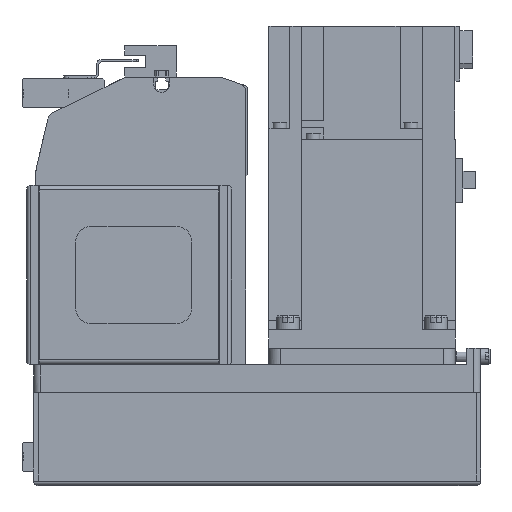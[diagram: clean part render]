
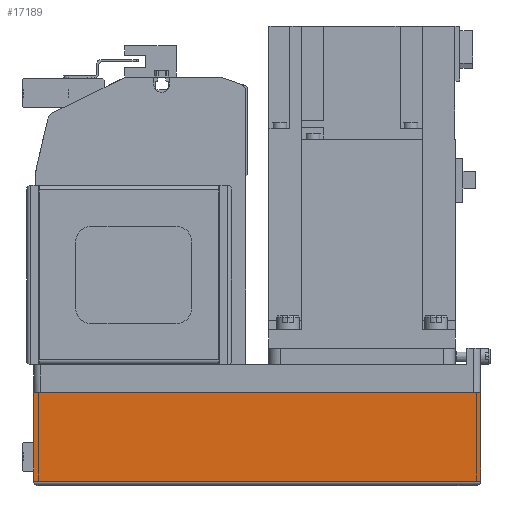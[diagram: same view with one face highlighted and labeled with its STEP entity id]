
A CAD part, left-side view. The second image highlights one B-rep face of the part: STEP entity #17189.
In plain terms, the highlighted planar face has unit normal (-1, 0, 0) as drawn and (0, 1, 0) by its records, which use the part's own axes.
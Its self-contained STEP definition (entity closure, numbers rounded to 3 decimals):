
#2706=ORIENTED_EDGE('',*,*,#6957,.F.);
#2707=ORIENTED_EDGE('',*,*,#6997,.F.);
#2708=ORIENTED_EDGE('',*,*,#6934,.T.);
#2709=ORIENTED_EDGE('',*,*,#6947,.T.);
#6934=EDGE_CURVE('',#9223,#9226,#10986,.T.);
#6947=EDGE_CURVE('',#9226,#9238,#10999,.T.);
#6957=EDGE_CURVE('',#9246,#9238,#11009,.T.);
#6997=EDGE_CURVE('',#9223,#9246,#11027,.T.);
#9223=VERTEX_POINT('',#26426);
#9226=VERTEX_POINT('',#26431);
#9238=VERTEX_POINT('',#26459);
#9246=VERTEX_POINT('',#26479);
#10986=LINE('',#26432,#12602);
#10999=LINE('',#26460,#12615);
#11009=LINE('',#26480,#12625);
#11027=LINE('',#26550,#12643);
#12602=VECTOR('',#21150,1000.);
#12615=VECTOR('',#21169,1000.);
#12625=VECTOR('',#21183,1000.);
#12643=VECTOR('',#21277,1000.);
#14075=EDGE_LOOP('',(#2706,#2707,#2708,#2709));
#15357=FACE_BOUND('',#14075,.T.);
#16472=PLANE('',#18432);
#17189=ADVANCED_FACE('',(#15357),#16472,.T.);
#18432=AXIS2_PLACEMENT_3D('',#26549,#21275,#21276);
#21150=DIRECTION('',(0.,0.,1.));
#21169=DIRECTION('',(1.,0.,0.));
#21183=DIRECTION('',(0.,0.,1.));
#21275=DIRECTION('',(0.,1.,0.));
#21276=DIRECTION('',(0.,0.,1.));
#21277=DIRECTION('',(1.,0.,0.));
#26426=CARTESIAN_POINT('',(-192.,40.,-50.));
#26431=CARTESIAN_POINT('',(-192.,40.,-12.1));
#26432=CARTESIAN_POINT('',(-192.,40.,-50.));
#26459=CARTESIAN_POINT('',(0.,40.,-12.1));
#26460=CARTESIAN_POINT('',(-192.,40.,-12.1));
#26479=CARTESIAN_POINT('',(0.,40.,-50.));
#26480=CARTESIAN_POINT('',(0.,40.,-50.));
#26549=CARTESIAN_POINT('',(-192.,40.,-50.));
#26550=CARTESIAN_POINT('',(-192.,40.,-50.));
